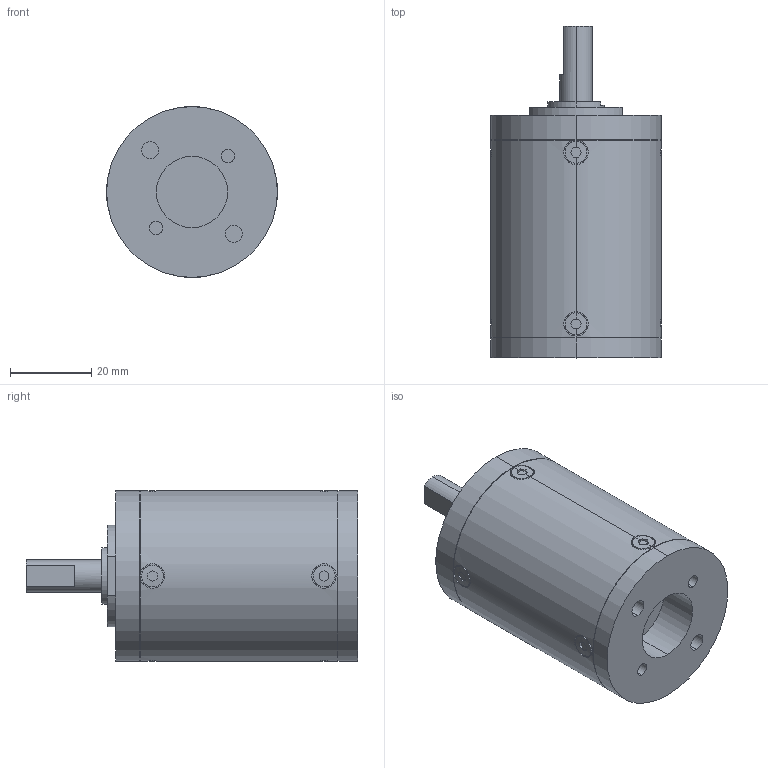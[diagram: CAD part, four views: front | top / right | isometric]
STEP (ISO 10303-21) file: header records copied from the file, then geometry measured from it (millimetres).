
FILE_DESCRIPTION (( 'STEP AP203' ), '1' );
FILE_NAME ('IG-42C-5stage.STEP', '2023-04-13T03:44:50', ( '' ), ( '' ), 'SwSTEP 2.0', 'SolidWorks 2019', '' );
FILE_SCHEMA (( 'CONFIG_CONTROL_DESIGN' ));
Length unit declared in the file: millimetre
Products named in the file (1): IG-42C-5stage
Bounding box: 42 x 81.6 x 42 mm (x, y, z)
Volume: 81418.9 mm3; surface area: 12842 mm2
Topology: 1 solids, 1 shells, 172 faces, 413 edges, 272 vertices
Faces by surface type: plane 93, cylinder 75, cone 4
Entity records: 6048 total; most frequent: CARTESIAN_POINT 2008, ORIENTED_EDGE 826, DIRECTION 813, EDGE_CURVE 413, AXIS2_PLACEMENT_3D 305, VERTEX_POINT 272, LINE 203, VECTOR 203
